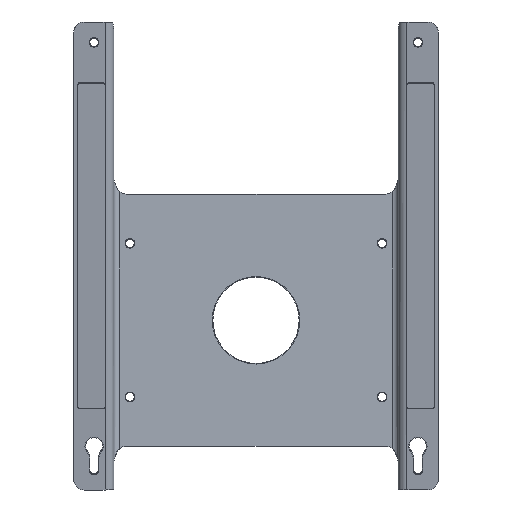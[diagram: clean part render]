
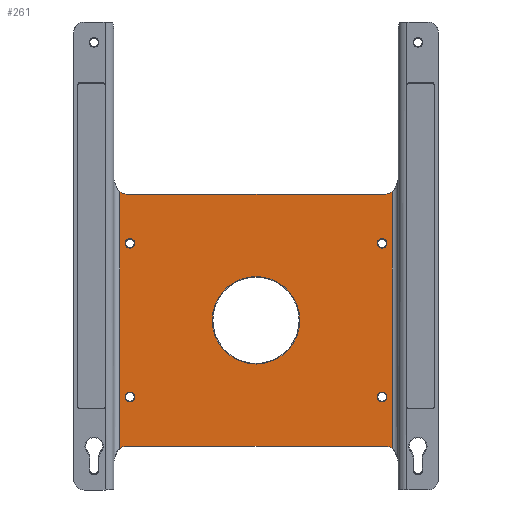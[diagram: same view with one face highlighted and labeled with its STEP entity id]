
A CAD part, top view. The second image highlights one B-rep face of the part: STEP entity #261.
In plain terms, the highlighted planar face has unit normal (0, 0, 1).
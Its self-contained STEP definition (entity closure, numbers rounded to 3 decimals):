
#261=ADVANCED_FACE('',(#603,#604,#605,#606,#607,#608),#355,.T.);
#355=PLANE('',#1734);
#387=LINE('',#2458,#495);
#388=LINE('',#2463,#496);
#389=LINE('',#2467,#497);
#390=LINE('',#2471,#498);
#495=VECTOR('',#1941,1.);
#496=VECTOR('',#1944,1.);
#497=VECTOR('',#1947,1.);
#498=VECTOR('',#1950,1.);
#603=FACE_BOUND('',#655,.T.);
#604=FACE_BOUND('',#656,.T.);
#605=FACE_BOUND('',#657,.T.);
#606=FACE_BOUND('',#658,.T.);
#607=FACE_BOUND('',#659,.T.);
#608=FACE_BOUND('',#660,.T.);
#655=EDGE_LOOP('',(#781));
#656=EDGE_LOOP('',(#782));
#657=EDGE_LOOP('',(#783));
#658=EDGE_LOOP('',(#784));
#659=EDGE_LOOP('',(#785));
#660=EDGE_LOOP('',(#786,#787,#788,#789,#790,#791,#792,#793));
#781=ORIENTED_EDGE('',*,*,#1404,.T.);
#782=ORIENTED_EDGE('',*,*,#1405,.T.);
#783=ORIENTED_EDGE('',*,*,#1406,.T.);
#784=ORIENTED_EDGE('',*,*,#1407,.T.);
#785=ORIENTED_EDGE('',*,*,#1408,.T.);
#786=ORIENTED_EDGE('',*,*,#1409,.T.);
#787=ORIENTED_EDGE('',*,*,#1410,.T.);
#788=ORIENTED_EDGE('',*,*,#1411,.T.);
#789=ORIENTED_EDGE('',*,*,#1412,.T.);
#790=ORIENTED_EDGE('',*,*,#1413,.T.);
#791=ORIENTED_EDGE('',*,*,#1414,.T.);
#792=ORIENTED_EDGE('',*,*,#1415,.F.);
#793=ORIENTED_EDGE('',*,*,#1416,.T.);
#1247=VERTEX_POINT('',#2449);
#1248=VERTEX_POINT('',#2451);
#1249=VERTEX_POINT('',#2453);
#1250=VERTEX_POINT('',#2455);
#1251=VERTEX_POINT('',#2457);
#1252=VERTEX_POINT('',#2459);
#1253=VERTEX_POINT('',#2460);
#1254=VERTEX_POINT('',#2462);
#1255=VERTEX_POINT('',#2464);
#1256=VERTEX_POINT('',#2466);
#1257=VERTEX_POINT('',#2468);
#1258=VERTEX_POINT('',#2470);
#1259=VERTEX_POINT('',#2472);
#1404=EDGE_CURVE('',#1247,#1247,#1637,.T.);
#1405=EDGE_CURVE('',#1248,#1248,#1638,.T.);
#1406=EDGE_CURVE('',#1249,#1249,#1639,.T.);
#1407=EDGE_CURVE('',#1250,#1250,#1640,.T.);
#1408=EDGE_CURVE('',#1251,#1251,#1641,.T.);
#1409=EDGE_CURVE('',#1252,#1253,#387,.T.);
#1410=EDGE_CURVE('',#1253,#1254,#1642,.T.);
#1411=EDGE_CURVE('',#1254,#1255,#388,.T.);
#1412=EDGE_CURVE('',#1255,#1256,#1643,.T.);
#1413=EDGE_CURVE('',#1256,#1257,#389,.T.);
#1414=EDGE_CURVE('',#1257,#1258,#1644,.T.);
#1415=EDGE_CURVE('',#1259,#1258,#390,.T.);
#1416=EDGE_CURVE('',#1259,#1252,#1645,.T.);
#1637=CIRCLE('',#1725,40.5);
#1638=CIRCLE('',#1726,4.5);
#1639=CIRCLE('',#1727,4.5);
#1640=CIRCLE('',#1728,4.5);
#1641=CIRCLE('',#1729,4.5);
#1642=CIRCLE('',#1730,10.);
#1643=CIRCLE('',#1731,10.);
#1644=CIRCLE('',#1732,10.);
#1645=CIRCLE('',#1733,10.);
#1725=AXIS2_PLACEMENT_3D('',#2448,#1931,#1932);
#1726=AXIS2_PLACEMENT_3D('',#2450,#1933,#1934);
#1727=AXIS2_PLACEMENT_3D('',#2452,#1935,#1936);
#1728=AXIS2_PLACEMENT_3D('',#2454,#1937,#1938);
#1729=AXIS2_PLACEMENT_3D('',#2456,#1939,#1940);
#1730=AXIS2_PLACEMENT_3D('',#2461,#1942,#1943);
#1731=AXIS2_PLACEMENT_3D('',#2465,#1945,#1946);
#1732=AXIS2_PLACEMENT_3D('',#2469,#1948,#1949);
#1733=AXIS2_PLACEMENT_3D('',#2473,#1951,#1952);
#1734=AXIS2_PLACEMENT_3D('',#2474,#1953,#1954);
#1931=DIRECTION('',(0.,0.,-1.));
#1932=DIRECTION('',(0.,-1.,0.));
#1933=DIRECTION('',(0.,0.,-1.));
#1934=DIRECTION('',(0.,-1.,0.));
#1935=DIRECTION('',(0.,0.,-1.));
#1936=DIRECTION('',(0.,-1.,0.));
#1937=DIRECTION('',(0.,0.,-1.));
#1938=DIRECTION('',(0.,-1.,0.));
#1939=DIRECTION('',(0.,0.,-1.));
#1940=DIRECTION('',(0.,-1.,0.));
#1941=DIRECTION('',(0.,1.,0.));
#1942=DIRECTION('',(0.,0.,-1.));
#1943=DIRECTION('',(0.,-1.,0.));
#1944=DIRECTION('',(-1.,0.,0.));
#1945=DIRECTION('',(0.,0.,-1.));
#1946=DIRECTION('',(0.,-1.,0.));
#1947=DIRECTION('',(0.,-1.,0.));
#1948=DIRECTION('',(0.,0.,-1.));
#1949=DIRECTION('',(0.,-1.,0.));
#1950=DIRECTION('',(-1.,0.,0.));
#1951=DIRECTION('',(0.,0.,-1.));
#1952=DIRECTION('',(0.,-1.,0.));
#1953=DIRECTION('',(0.,0.,1.));
#1954=DIRECTION('',(-0.139,-0.99,0.));
#2448=CARTESIAN_POINT('',(0.,95.921,3.177));
#2449=CARTESIAN_POINT('',(0.,55.421,3.177));
#2450=CARTESIAN_POINT('',(-116.84,166.877,3.177));
#2451=CARTESIAN_POINT('',(-116.84,162.377,3.177));
#2452=CARTESIAN_POINT('',(-116.84,24.637,3.177));
#2453=CARTESIAN_POINT('',(-116.84,20.137,3.177));
#2454=CARTESIAN_POINT('',(116.84,24.637,3.177));
#2455=CARTESIAN_POINT('',(116.84,20.137,3.177));
#2456=CARTESIAN_POINT('',(116.84,166.877,3.177));
#2457=CARTESIAN_POINT('',(116.84,162.377,3.177));
#2458=CARTESIAN_POINT('',(126.174,250.304,3.177));
#2459=CARTESIAN_POINT('',(126.174,-23.122,3.177));
#2460=CARTESIAN_POINT('',(126.174,214.636,3.177));
#2461=CARTESIAN_POINT('',(119.965,222.475,3.177));
#2462=CARTESIAN_POINT('',(119.965,212.475,3.177));
#2463=CARTESIAN_POINT('',(-55.1,212.475,3.177));
#2464=CARTESIAN_POINT('',(-119.965,212.475,3.177));
#2465=CARTESIAN_POINT('',(-119.965,222.475,3.177));
#2466=CARTESIAN_POINT('',(-126.174,214.636,3.177));
#2467=CARTESIAN_POINT('',(-126.174,250.304,3.177));
#2468=CARTESIAN_POINT('',(-126.174,-23.122,3.177));
#2469=CARTESIAN_POINT('',(-119.965,-30.961,3.177));
#2470=CARTESIAN_POINT('',(-119.965,-20.961,3.177));
#2471=CARTESIAN_POINT('',(-55.1,-20.961,3.177));
#2472=CARTESIAN_POINT('',(119.965,-20.961,3.177));
#2473=CARTESIAN_POINT('',(119.965,-30.961,3.177));
#2474=CARTESIAN_POINT('',(-55.1,-10.202,3.177));
